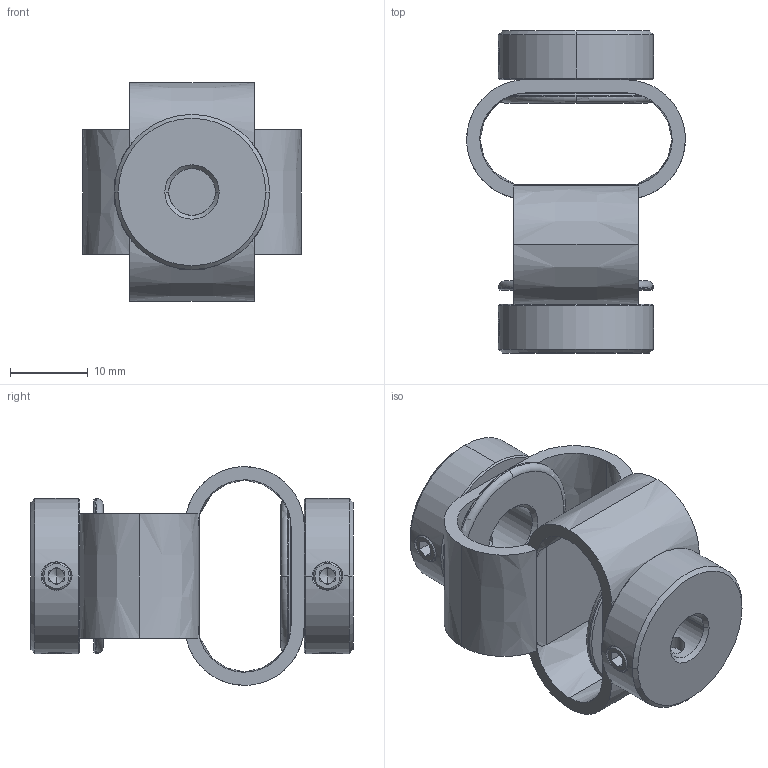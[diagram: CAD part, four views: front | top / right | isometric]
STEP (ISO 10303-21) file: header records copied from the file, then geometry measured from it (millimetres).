
FILE_DESCRIPTION (( 'STEP AP203' ), '1' );
FILE_NAME ('LS-D-D27L40-6-8.STEP', '2021-10-28T06:29:25', ( '' ), ( '' ), 'SwSTEP 2.0', 'SolidWorks 2018', '' );
FILE_SCHEMA (( 'CONFIG_CONTROL_DESIGN' ));
Length unit declared in the file: millimetre
Products named in the file (1): LS-D-D27L40-6-8
Bounding box: 28.2 x 41.54 x 28.2 mm (x, y, z)
Volume: 7119.8 mm3; surface area: 6684.5 mm2
Topology: 1 solids, 1 shells, 190 faces, 490 edges, 306 vertices
Faces by surface type: plane 86, cone 54, cylinder 30, bspline 16, torus 4
Entity records: 7779 total; most frequent: CARTESIAN_POINT 3221, ORIENTED_EDGE 964, DIRECTION 886, EDGE_CURVE 482, AXIS2_PLACEMENT_3D 345, VERTEX_POINT 306, EDGE_LOOP 218, VECTOR 196
